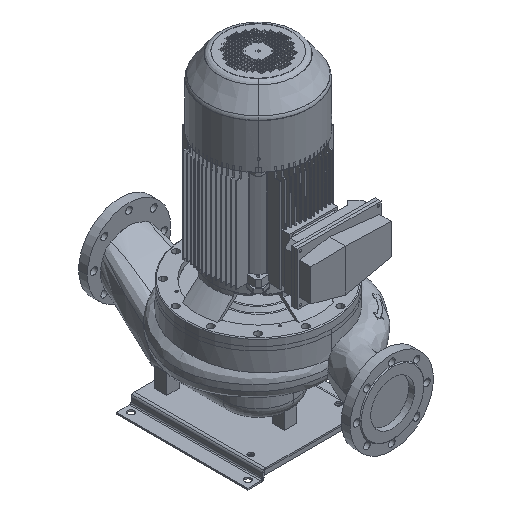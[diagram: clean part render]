
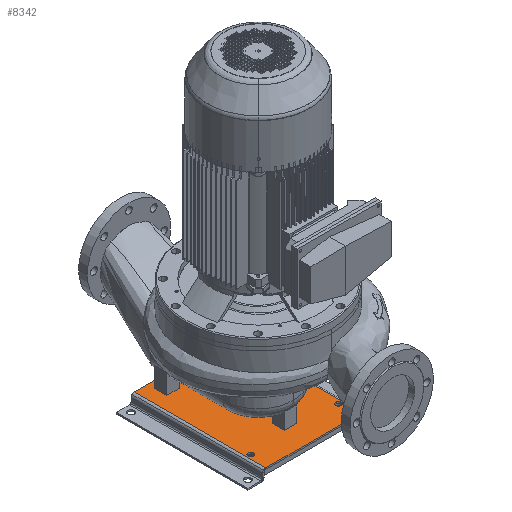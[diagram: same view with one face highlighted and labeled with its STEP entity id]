
A CAD part, isometric view. The second image highlights one B-rep face of the part: STEP entity #8342.
In plain terms, the highlighted planar face has unit normal (0, 0, 1) as drawn and (0, 1, 0) by its records, which use the part's own axes.
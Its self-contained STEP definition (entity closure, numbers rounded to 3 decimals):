
#8342=ADVANCED_FACE('',(#17165,#17166,#17167,#17168,#17169,#17170),#17171,.T.);
#8386=EDGE_CURVE('',#17245,#17246,#17247,.T.);
#17165=FACE_BOUND('',#30644,.T.);
#17166=FACE_BOUND('',#30645,.T.);
#17167=FACE_BOUND('',#30646,.T.);
#17168=FACE_BOUND('',#30647,.T.);
#17169=FACE_BOUND('',#30648,.T.);
#17170=FACE_OUTER_BOUND('',#30649,.T.);
#17171=PLANE('',#30650);
#17245=VERTEX_POINT('',#30733);
#17246=VERTEX_POINT('',#30734);
#17247=LINE('',#30735,#30736);
#30644=EDGE_LOOP('',(#53279,#53280));
#30645=EDGE_LOOP('',(#53281,#53282));
#30646=EDGE_LOOP('',(#53283,#53284));
#30647=EDGE_LOOP('',(#53285,#53286));
#30648=EDGE_LOOP('',(#53287,#53288));
#30649=EDGE_LOOP('',(#53289,#53290,#53291,#53292));
#30650=AXIS2_PLACEMENT_3D('',#53293,#53294,#53295);
#30733=CARTESIAN_POINT('',(389.0,35.,0.0));
#30734=CARTESIAN_POINT('',(61.0,35.0,0.0));
#30735=CARTESIAN_POINT('',(99.43,35.0,0.0));
#30736=VECTOR('',#53494,1.0);
#53279=ORIENTED_EDGE('',*,*,#64258,.T.);
#53280=ORIENTED_EDGE('',*,*,#64271,.T.);
#53281=ORIENTED_EDGE('',*,*,#64253,.T.);
#53282=ORIENTED_EDGE('',*,*,#64274,.T.);
#53283=ORIENTED_EDGE('',*,*,#64243,.T.);
#53284=ORIENTED_EDGE('',*,*,#64280,.T.);
#53285=ORIENTED_EDGE('',*,*,#64233,.T.);
#53286=ORIENTED_EDGE('',*,*,#64286,.T.);
#53287=ORIENTED_EDGE('',*,*,#64223,.T.);
#53288=ORIENTED_EDGE('',*,*,#64292,.T.);
#53289=ORIENTED_EDGE('',*,*,#64308,.F.);
#53290=ORIENTED_EDGE('',*,*,#64309,.T.);
#53291=ORIENTED_EDGE('',*,*,#64204,.F.);
#53292=ORIENTED_EDGE('',*,*,#8386,.T.);
#53293=CARTESIAN_POINT('',(249.715,35.0,0.0));
#53294=DIRECTION('',(0.,1.0,0.0));
#53295=DIRECTION('',(-1.0,0.,-0.0));
#53494=DIRECTION('',(-1.0,0.,0.0));
#64204=EDGE_CURVE('',#17245,#77064,#77065,.T.);
#64223=EDGE_CURVE('',#77095,#77092,#77096,.T.);
#64233=EDGE_CURVE('',#77113,#77110,#77114,.T.);
#64243=EDGE_CURVE('',#77131,#77128,#77132,.T.);
#64253=EDGE_CURVE('',#77149,#77146,#77150,.T.);
#64258=EDGE_CURVE('',#77158,#77155,#77159,.T.);
#64271=EDGE_CURVE('',#77155,#77158,#77177,.T.);
#64274=EDGE_CURVE('',#77146,#77149,#77180,.T.);
#64280=EDGE_CURVE('',#77128,#77131,#77186,.T.);
#64286=EDGE_CURVE('',#77110,#77113,#77192,.T.);
#64292=EDGE_CURVE('',#77092,#77095,#77198,.T.);
#64308=EDGE_CURVE('',#77220,#17246,#77221,.T.);
#64309=EDGE_CURVE('',#77220,#77064,#77222,.T.);
#77064=VERTEX_POINT('',#95799);
#77065=LINE('',#95800,#95801);
#77092=VERTEX_POINT('',#95834);
#77095=VERTEX_POINT('',#95838);
#77096=CIRCLE('',#95839,9.5);
#77110=VERTEX_POINT('',#95856);
#77113=VERTEX_POINT('',#95860);
#77114=CIRCLE('',#95861,9.5);
#77128=VERTEX_POINT('',#95878);
#77131=VERTEX_POINT('',#95882);
#77132=CIRCLE('',#95883,9.5);
#77146=VERTEX_POINT('',#95900);
#77149=VERTEX_POINT('',#95904);
#77150=CIRCLE('',#95905,9.5);
#77155=VERTEX_POINT('',#95911);
#77158=VERTEX_POINT('',#95915);
#77159=CIRCLE('',#95916,9.5);
#77177=CIRCLE('',#95937,9.5);
#77180=CIRCLE('',#95940,9.5);
#77186=CIRCLE('',#95946,9.5);
#77192=CIRCLE('',#95952,9.5);
#77198=CIRCLE('',#95958,9.5);
#77220=VERTEX_POINT('',#95990);
#77221=LINE('',#95991,#95992);
#77222=LINE('',#95993,#95994);
#95799=CARTESIAN_POINT('',(389.0,35.0,450.0));
#95800=CARTESIAN_POINT('',(389.0,35.0,0.0));
#95801=VECTOR('',#105356,1.0);
#95834=CARTESIAN_POINT('',(135.402,35.0,39.727));
#95838=CARTESIAN_POINT('',(119.598,35.0,50.273));
#95839=AXIS2_PLACEMENT_3D('',#105385,#105386,#105387);
#95856=CARTESIAN_POINT('',(375.0,35.0,375.5));
#95860=CARTESIAN_POINT('',(375.0,35.0,394.5));
#95861=AXIS2_PLACEMENT_3D('',#105401,#105402,#105403);
#95878=CARTESIAN_POINT('',(75.,35.0,375.5));
#95882=CARTESIAN_POINT('',(75.,35.0,394.5));
#95883=AXIS2_PLACEMENT_3D('',#105417,#105418,#105419);
#95900=CARTESIAN_POINT('',(225.0,35.0,359.5));
#95904=CARTESIAN_POINT('',(225.0,35.0,340.5));
#95905=AXIS2_PLACEMENT_3D('',#105433,#105434,#105435);
#95911=CARTESIAN_POINT('',(314.598,35.0,39.727));
#95915=CARTESIAN_POINT('',(330.402,35.0,50.273));
#95916=AXIS2_PLACEMENT_3D('',#105441,#105442,#105443);
#95937=AXIS2_PLACEMENT_3D('',#105465,#105466,#105467);
#95940=AXIS2_PLACEMENT_3D('',#105471,#105472,#105473);
#95946=AXIS2_PLACEMENT_3D('',#105483,#105484,#105485);
#95952=AXIS2_PLACEMENT_3D('',#105495,#105496,#105497);
#95958=AXIS2_PLACEMENT_3D('',#105507,#105508,#105509);
#95990=CARTESIAN_POINT('',(61.0,35.0,450.0));
#95991=CARTESIAN_POINT('',(61.0,35.0,0.0));
#95992=VECTOR('',#105520,1.0);
#95993=CARTESIAN_POINT('',(99.43,35.0,450.0));
#95994=VECTOR('',#105521,1.0);
#105356=DIRECTION('',(0.0,0.0,1.0));
#105385=CARTESIAN_POINT('',(127.5,35.0,45.0));
#105386=DIRECTION('',(0.,-1.0,0.0));
#105387=DIRECTION('',(0.832,0.,-0.555));
#105401=CARTESIAN_POINT('',(375.0,35.0,385.0));
#105402=DIRECTION('',(0.,-1.0,0.0));
#105403=DIRECTION('',(0.0,0.0,-1.0));
#105417=CARTESIAN_POINT('',(75.,35.0,385.0));
#105418=DIRECTION('',(0.,-1.0,0.0));
#105419=DIRECTION('',(0.0,0.0,-1.0));
#105433=CARTESIAN_POINT('',(225.0,35.0,350.0));
#105434=DIRECTION('',(0.,-1.0,0.0));
#105435=DIRECTION('',(0.0,0.0,1.0));
#105441=CARTESIAN_POINT('',(322.5,35.0,45.0));
#105442=DIRECTION('',(0.,-1.0,0.0));
#105443=DIRECTION('',(-0.832,0.,-0.555));
#105465=CARTESIAN_POINT('',(322.5,35.0,45.0));
#105466=DIRECTION('',(0.,-1.0,0.0));
#105467=DIRECTION('',(-0.832,0.,-0.555));
#105471=CARTESIAN_POINT('',(225.0,35.0,350.0));
#105472=DIRECTION('',(0.,-1.0,0.0));
#105473=DIRECTION('',(0.0,0.0,1.0));
#105483=CARTESIAN_POINT('',(75.,35.0,385.0));
#105484=DIRECTION('',(0.,-1.0,0.0));
#105485=DIRECTION('',(0.0,0.0,-1.0));
#105495=CARTESIAN_POINT('',(375.0,35.0,385.0));
#105496=DIRECTION('',(0.,-1.0,0.0));
#105497=DIRECTION('',(0.0,0.0,-1.0));
#105507=CARTESIAN_POINT('',(127.5,35.0,45.0));
#105508=DIRECTION('',(0.,-1.0,0.0));
#105509=DIRECTION('',(0.832,0.,-0.555));
#105520=DIRECTION('',(-0.0,-0.0,-1.0));
#105521=DIRECTION('',(1.0,0.,0.0));
